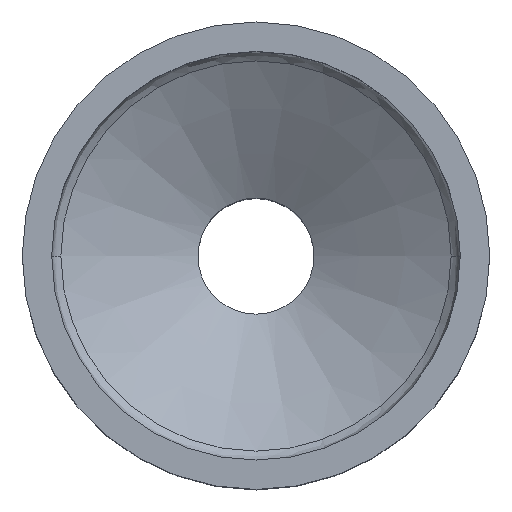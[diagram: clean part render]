
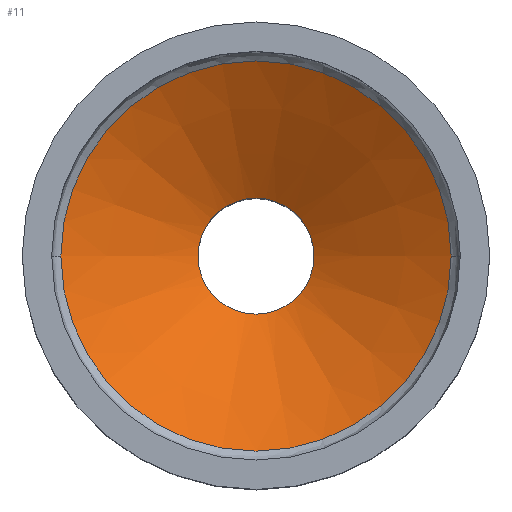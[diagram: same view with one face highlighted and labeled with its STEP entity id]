
A CAD part, top view. The second image highlights one B-rep face of the part: STEP entity #11.
In plain terms, the highlighted conical face has half-angle 60 degrees and reference radius 3.15 mm.
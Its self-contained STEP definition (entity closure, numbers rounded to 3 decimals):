
#11 = ADVANCED_FACE ( 'NONE', ( #267, #265 ), #16, .F. ) ;
#16 = CONICAL_SURFACE ( 'NONE', #272, 3.15, 1.047 ) ;
#23 = EDGE_CURVE ( 'NONE', #129, #129, #53, .T. ) ;
#26 = EDGE_CURVE ( 'NONE', #384, #387, #56, .T. ) ;
#36 = EDGE_CURVE ( 'NONE', #387, #384, #65, .T. ) ;
#53 = CIRCLE ( 'NONE', #295, 3.15 ) ;
#56 = CIRCLE ( 'NONE', #298, 10.6 ) ;
#65 = CIRCLE ( 'NONE', #308, 10.6 ) ;
#119 = CARTESIAN_POINT ( 'NONE',  ( -10.6, 0., -8.366 ) ) ;
#122 = CARTESIAN_POINT ( 'NONE',  ( 10.6, 0., -8.366 ) ) ;
#129 = VERTEX_POINT ( 'NONE', #130 ) ;
#130 = CARTESIAN_POINT ( 'NONE',  ( 3.15, 0., -12.667 ) ) ;
#265 = FACE_BOUND ( 'NONE', #366, .T. ) ;
#267 = FACE_OUTER_BOUND ( 'NONE', #452, .T. ) ;
#272 = AXIS2_PLACEMENT_3D ( 'NONE', #492, #493, #494 ) ;
#295 = AXIS2_PLACEMENT_3D ( 'NONE', #562, #563, #564 ) ;
#298 = AXIS2_PLACEMENT_3D ( 'NONE', #571, #572, #503 ) ;
#308 = AXIS2_PLACEMENT_3D ( 'NONE', #532, #533, #534 ) ;
#366 = EDGE_LOOP ( 'NONE', ( #396 ) ) ;
#384 = VERTEX_POINT ( 'NONE', #119 ) ;
#387 = VERTEX_POINT ( 'NONE', #122 ) ;
#396 = ORIENTED_EDGE ( 'NONE', *, *, #23, .T. ) ;
#397 = ORIENTED_EDGE ( 'NONE', *, *, #26, .T. ) ;
#452 = EDGE_LOOP ( 'NONE', ( #459, #397 ) ) ;
#459 = ORIENTED_EDGE ( 'NONE', *, *, #36, .T. ) ;
#492 = CARTESIAN_POINT ( 'NONE',  ( 0., 0., -12.667 ) ) ;
#493 = DIRECTION ( 'NONE',  ( 0., 0., 1. ) ) ;
#494 = DIRECTION ( 'NONE',  ( 1., 0., 0. ) ) ;
#503 = DIRECTION ( 'NONE',  ( 0., -1., 0. ) ) ;
#532 = CARTESIAN_POINT ( 'NONE',  ( 0., 0., -8.366 ) ) ;
#533 = DIRECTION ( 'NONE',  ( 0., 0., 1. ) ) ;
#534 = DIRECTION ( 'NONE',  ( 0., -1., 0. ) ) ;
#562 = CARTESIAN_POINT ( 'NONE',  ( 0., 0., -12.667 ) ) ;
#563 = DIRECTION ( 'NONE',  ( 0., 0., -1. ) ) ;
#564 = DIRECTION ( 'NONE',  ( 1., 0., 0. ) ) ;
#571 = CARTESIAN_POINT ( 'NONE',  ( 0., 0., -8.366 ) ) ;
#572 = DIRECTION ( 'NONE',  ( 0., 0., 1. ) ) ;
